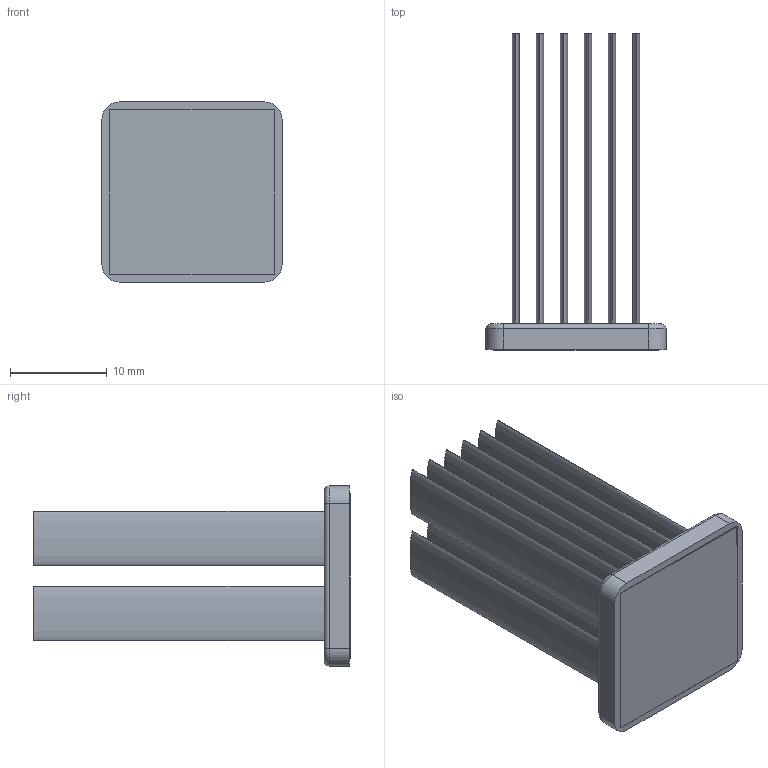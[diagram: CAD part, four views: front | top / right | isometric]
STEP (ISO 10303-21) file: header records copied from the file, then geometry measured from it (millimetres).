
FILE_DESCRIPTION (( 'STEP AP214' ), '1' );
FILE_NAME ('INM19001-33W-2.6.STEP', '2023-03-02T18:22:52', ( '' ), ( '' ), 'SwSTEP 2.0', 'SolidWorks 2020', '' );
FILE_SCHEMA (( 'AUTOMOTIVE_DESIGN' ));
Length unit declared in the file: millimetre
Products named in the file (1): INM19001-33W-2.6
Bounding box: 18.6 x 32.7 x 18.6 mm (x, y, z)
Volume: 2132.4 mm3; surface area: 5608.7 mm2
Topology: 2 solids, 2 shells, 60 faces, 124 edges, 80 vertices
Faces by surface type: bspline 24, plane 24, cylinder 8, torus 4
Entity records: 2339 total; most frequent: CARTESIAN_POINT 577, ORIENTED_EDGE 248, DIRECTION 170, EDGE_CURVE 124, VERTEX_POINT 80, EDGE_LOOP 72, UNCERTAINTY_MEASURE_WITH_UNIT 64, PRESENTATION_STYLE_ASSIGNMENT 63
